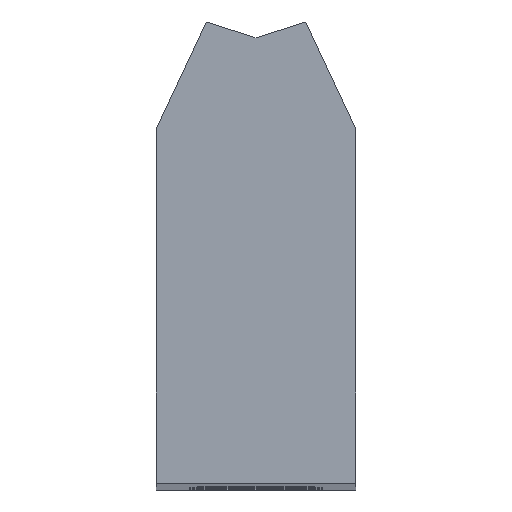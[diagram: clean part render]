
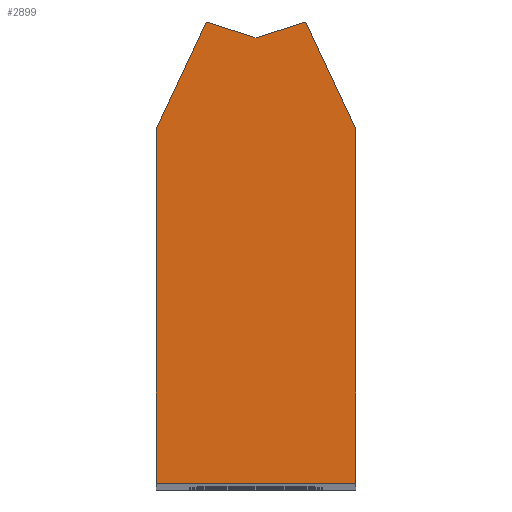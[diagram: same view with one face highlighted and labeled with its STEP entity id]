
A CAD part, top view. The second image highlights one B-rep face of the part: STEP entity #2899.
In plain terms, the highlighted planar face has unit normal (0, 0, 1).
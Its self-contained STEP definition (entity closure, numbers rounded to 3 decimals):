
#3 = EDGE_CURVE ( 'NONE', #205, #683, #2555, .T. ) ;
#49 = VECTOR ( 'NONE', #297, 1000. ) ;
#77 = CARTESIAN_POINT ( 'NONE',  ( 15., 0., 299.75 ) ) ;
#78 = CARTESIAN_POINT ( 'NONE',  ( 7.5, 69.394, 299.75 ) ) ;
#191 = VECTOR ( 'NONE', #2039, 1000. ) ;
#205 = VERTEX_POINT ( 'NONE', #2931 ) ;
#297 = DIRECTION ( 'NONE',  ( 0., -1., 0. ) ) ;
#304 = CARTESIAN_POINT ( 'NONE',  ( -15., 0., 299.75 ) ) ;
#343 = ORIENTED_EDGE ( 'NONE', *, *, #1243, .T. ) ;
#366 = VERTEX_POINT ( 'NONE', #2255 ) ;
#402 = VECTOR ( 'NONE', #3023, 1000. ) ;
#443 = CARTESIAN_POINT ( 'NONE',  ( -15., 53.31, 299.75 ) ) ;
#463 = VERTEX_POINT ( 'NONE', #1829 ) ;
#474 = VERTEX_POINT ( 'NONE', #2535 ) ;
#683 = VERTEX_POINT ( 'NONE', #691 ) ;
#691 = CARTESIAN_POINT ( 'NONE',  ( 15., 53.31, 299.75 ) ) ;
#892 = EDGE_CURVE ( 'NONE', #463, #205, #1294, .T. ) ;
#927 = LINE ( 'NONE', #443, #49 ) ;
#1057 = DIRECTION ( 'NONE',  ( 0., 1., 0. ) ) ;
#1076 = DIRECTION ( 'NONE',  ( -0.954, -0.301, 0. ) ) ;
#1195 = FACE_OUTER_BOUND ( 'NONE', #1661, .T. ) ;
#1243 = EDGE_CURVE ( 'NONE', #474, #2976, #1441, .T. ) ;
#1255 = ORIENTED_EDGE ( 'NONE', *, *, #892, .T. ) ;
#1266 = ORIENTED_EDGE ( 'NONE', *, *, #2539, .T. ) ;
#1275 = CARTESIAN_POINT ( 'NONE',  ( 15., 53.31, 299.75 ) ) ;
#1294 = LINE ( 'NONE', #304, #191 ) ;
#1306 = DIRECTION ( 'NONE',  ( -0.423, 0.906, 0. ) ) ;
#1330 = LINE ( 'NONE', #2305, #402 ) ;
#1408 = VECTOR ( 'NONE', #1057, 1000. ) ;
#1424 = EDGE_CURVE ( 'NONE', #366, #474, #1330, .T. ) ;
#1441 = LINE ( 'NONE', #3193, #3047 ) ;
#1534 = VERTEX_POINT ( 'NONE', #1752 ) ;
#1661 = EDGE_LOOP ( 'NONE', ( #1927, #343, #2558, #1255, #2083, #2170, #1266 ) ) ;
#1695 = DIRECTION ( 'NONE',  ( 1., 0., 0. ) ) ;
#1752 = CARTESIAN_POINT ( 'NONE',  ( 7.5, 69.394, 299.75 ) ) ;
#1829 = CARTESIAN_POINT ( 'NONE',  ( -15., 0., 299.75 ) ) ;
#1891 = VECTOR ( 'NONE', #1306, 1000. ) ;
#1927 = ORIENTED_EDGE ( 'NONE', *, *, #1424, .T. ) ;
#2007 = PLANE ( 'NONE',  #2474 ) ;
#2038 = LINE ( 'NONE', #1275, #1891 ) ;
#2039 = DIRECTION ( 'NONE',  ( 1., 0., 0. ) ) ;
#2083 = ORIENTED_EDGE ( 'NONE', *, *, #3, .T. ) ;
#2109 = VECTOR ( 'NONE', #1076, 1000. ) ;
#2170 = ORIENTED_EDGE ( 'NONE', *, *, #3186, .T. ) ;
#2193 = DIRECTION ( 'NONE',  ( 0., 0., 1. ) ) ;
#2255 = CARTESIAN_POINT ( 'NONE',  ( 0., 67.029, 299.75 ) ) ;
#2305 = CARTESIAN_POINT ( 'NONE',  ( 0., 67.029, 299.75 ) ) ;
#2308 = LINE ( 'NONE', #78, #2109 ) ;
#2325 = CARTESIAN_POINT ( 'NONE',  ( -15., 53.31, 299.75 ) ) ;
#2439 = EDGE_CURVE ( 'NONE', #2976, #463, #927, .T. ) ;
#2474 = AXIS2_PLACEMENT_3D ( 'NONE', #2677, #2193, #1695 ) ;
#2535 = CARTESIAN_POINT ( 'NONE',  ( -7.5, 69.394, 299.75 ) ) ;
#2539 = EDGE_CURVE ( 'NONE', #1534, #366, #2308, .T. ) ;
#2555 = LINE ( 'NONE', #77, #1408 ) ;
#2558 = ORIENTED_EDGE ( 'NONE', *, *, #2439, .T. ) ;
#2677 = CARTESIAN_POINT ( 'NONE',  ( 0., 0., 299.75 ) ) ;
#2899 = ADVANCED_FACE ( 'NONE', ( #1195 ), #2007, .T. ) ;
#2931 = CARTESIAN_POINT ( 'NONE',  ( 15., 0., 299.75 ) ) ;
#2953 = DIRECTION ( 'NONE',  ( -0.423, -0.906, 0. ) ) ;
#2976 = VERTEX_POINT ( 'NONE', #2325 ) ;
#3023 = DIRECTION ( 'NONE',  ( -0.954, 0.301, 0. ) ) ;
#3047 = VECTOR ( 'NONE', #2953, 1000. ) ;
#3186 = EDGE_CURVE ( 'NONE', #683, #1534, #2038, .T. ) ;
#3193 = CARTESIAN_POINT ( 'NONE',  ( -7.5, 69.394, 299.75 ) ) ;
